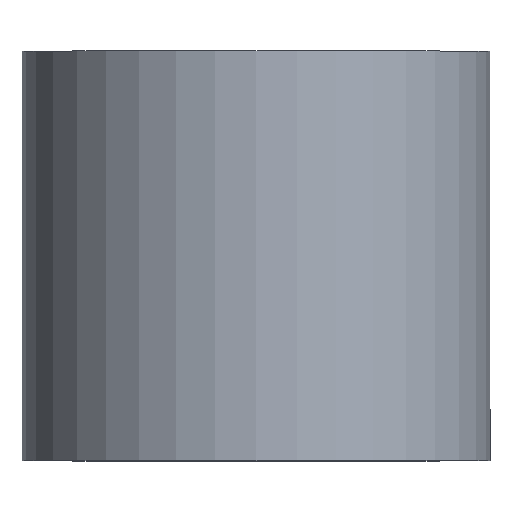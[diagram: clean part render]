
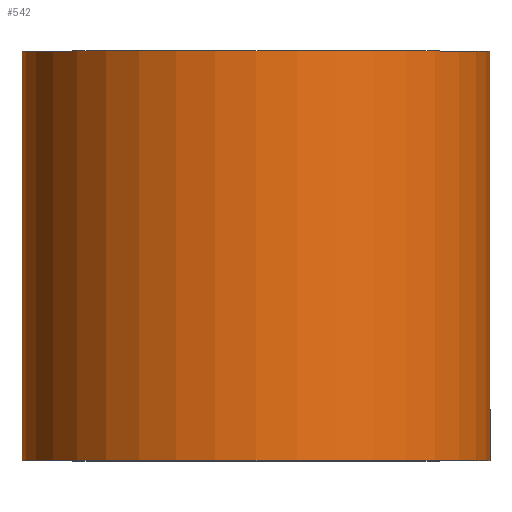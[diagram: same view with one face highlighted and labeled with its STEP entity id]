
A CAD part, top view. The second image highlights one B-rep face of the part: STEP entity #542.
In plain terms, the highlighted cylindrical face has radius 20 mm (diameter 40 mm), a partial arc.
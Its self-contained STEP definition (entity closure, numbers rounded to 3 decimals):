
#5 = DIRECTION ( 'NONE',  ( 0., 1., 0. ) ) ;
#17 = VECTOR ( 'NONE', #5, 1000. ) ;
#44 = AXIS2_PLACEMENT_3D ( 'NONE', #679, #444, #804 ) ;
#74 = CARTESIAN_POINT ( 'NONE',  ( 20., -17.5, 0. ) ) ;
#161 = CIRCLE ( 'NONE', #44, 20. ) ;
#170 = CYLINDRICAL_SURFACE ( 'NONE', #263, 20. ) ;
#193 = CIRCLE ( 'NONE', #562, 20. ) ;
#212 = EDGE_CURVE ( 'NONE', #588, #613, #193, .T. ) ;
#253 = CARTESIAN_POINT ( 'NONE',  ( -20., -17.5, 0. ) ) ;
#263 = AXIS2_PLACEMENT_3D ( 'NONE', #844, #775, #470 ) ;
#286 = VERTEX_POINT ( 'NONE', #74 ) ;
#318 = EDGE_CURVE ( 'NONE', #842, #286, #161, .T. ) ;
#335 = ORIENTED_EDGE ( 'NONE', *, *, #212, .F. ) ;
#346 = DIRECTION ( 'NONE',  ( -1., 0., 0. ) ) ;
#388 = CARTESIAN_POINT ( 'NONE',  ( -20., 0., 0. ) ) ;
#431 = DIRECTION ( 'NONE',  ( 0., 1., 0. ) ) ;
#444 = DIRECTION ( 'NONE',  ( 0., 1., 0. ) ) ;
#455 = EDGE_LOOP ( 'NONE', ( #720, #493, #335, #684 ) ) ;
#470 = DIRECTION ( 'NONE',  ( -1., 0., 0. ) ) ;
#493 = ORIENTED_EDGE ( 'NONE', *, *, #794, .T. ) ;
#497 = CARTESIAN_POINT ( 'NONE',  ( -20., 17.5, 0. ) ) ;
#542 = ADVANCED_FACE ( 'NONE', ( #693 ), #170, .T. ) ;
#562 = AXIS2_PLACEMENT_3D ( 'NONE', #709, #431, #346 ) ;
#588 = VERTEX_POINT ( 'NONE', #497 ) ;
#613 = VERTEX_POINT ( 'NONE', #781 ) ;
#679 = CARTESIAN_POINT ( 'NONE',  ( 0., -17.5, 0. ) ) ;
#684 = ORIENTED_EDGE ( 'NONE', *, *, #815, .F. ) ;
#693 = FACE_OUTER_BOUND ( 'NONE', #455, .T. ) ;
#709 = CARTESIAN_POINT ( 'NONE',  ( 0., 17.5, 0. ) ) ;
#720 = ORIENTED_EDGE ( 'NONE', *, *, #318, .T. ) ;
#775 = DIRECTION ( 'NONE',  ( 0., 1., 0. ) ) ;
#781 = CARTESIAN_POINT ( 'NONE',  ( 20., 17.5, 0. ) ) ;
#794 = EDGE_CURVE ( 'NONE', #286, #613, #881, .T. ) ;
#804 = DIRECTION ( 'NONE',  ( -1., 0., 0. ) ) ;
#815 = EDGE_CURVE ( 'NONE', #842, #588, #947, .T. ) ;
#821 = CARTESIAN_POINT ( 'NONE',  ( 20., 0., 0. ) ) ;
#842 = VERTEX_POINT ( 'NONE', #253 ) ;
#844 = CARTESIAN_POINT ( 'NONE',  ( 0., 0., 0. ) ) ;
#881 = LINE ( 'NONE', #821, #929 ) ;
#929 = VECTOR ( 'NONE', #952, 1000. ) ;
#947 = LINE ( 'NONE', #388, #17 ) ;
#952 = DIRECTION ( 'NONE',  ( 0., 1., 0. ) ) ;
